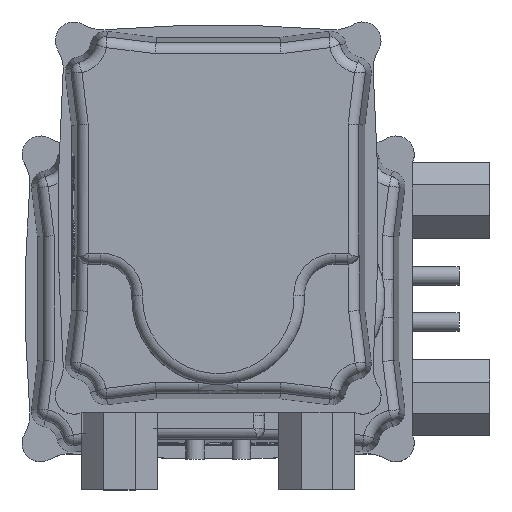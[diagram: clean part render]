
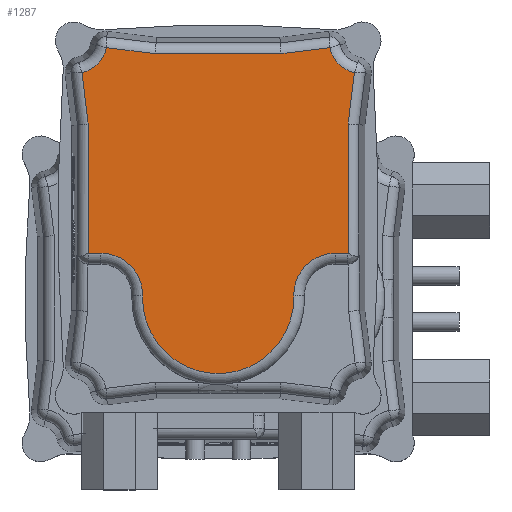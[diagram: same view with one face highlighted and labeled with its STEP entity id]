
A CAD part, top view. The second image highlights one B-rep face of the part: STEP entity #1287.
In plain terms, the highlighted planar face has unit normal (0, 0, 1).
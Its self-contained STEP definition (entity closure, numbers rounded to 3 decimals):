
#1287 = ADVANCED_FACE( '', ( #2986 ), #2987, .T. );
#2986 = FACE_OUTER_BOUND( '', #7973, .T. );
#2987 = PLANE( '', #7974 );
#7973 = EDGE_LOOP( '', ( #14096, #14097, #14098, #14099, #14100, #14101, #14102, #14103, #14104, #14105, #14106, #14107, #14108, #14109, #14110, #14111 ) );
#7974 = AXIS2_PLACEMENT_3D( '', #14112, #14113, #14114 );
#14096 = ORIENTED_EDGE( '', *, *, #18840, .T. );
#14097 = ORIENTED_EDGE( '', *, *, #18841, .T. );
#14098 = ORIENTED_EDGE( '', *, *, #17738, .T. );
#14099 = ORIENTED_EDGE( '', *, *, #18183, .T. );
#14100 = ORIENTED_EDGE( '', *, *, #18842, .T. );
#14101 = ORIENTED_EDGE( '', *, *, #18095, .T. );
#14102 = ORIENTED_EDGE( '', *, *, #18843, .T. );
#14103 = ORIENTED_EDGE( '', *, *, #18844, .T. );
#14104 = ORIENTED_EDGE( '', *, *, #18845, .T. );
#14105 = ORIENTED_EDGE( '', *, *, #18846, .T. );
#14106 = ORIENTED_EDGE( '', *, *, #18847, .T. );
#14107 = ORIENTED_EDGE( '', *, *, #18848, .T. );
#14108 = ORIENTED_EDGE( '', *, *, #18849, .T. );
#14109 = ORIENTED_EDGE( '', *, *, #18850, .T. );
#14110 = ORIENTED_EDGE( '', *, *, #18518, .T. );
#14111 = ORIENTED_EDGE( '', *, *, #18430, .T. );
#14112 = CARTESIAN_POINT( '', ( 47.227, -44.578, 84. ) );
#14113 = DIRECTION( '', ( 0., 0., 1. ) );
#14114 = DIRECTION( '', ( 1., 0., 0. ) );
#17738 = EDGE_CURVE( '', #20151, #19901, #20152, .F. );
#18095 = EDGE_CURVE( '', #20759, #20757, #20760, .T. );
#18183 = EDGE_CURVE( '', #19901, #20896, #20898, .T. );
#18430 = EDGE_CURVE( '', #21285, #21289, #21291, .T. );
#18518 = EDGE_CURVE( '', #21415, #21285, #21420, .F. );
#18840 = EDGE_CURVE( '', #21289, #21892, #21893, .T. );
#18841 = EDGE_CURVE( '', #21892, #20151, #21894, .T. );
#18842 = EDGE_CURVE( '', #20896, #20759, #21895, .T. );
#18843 = EDGE_CURVE( '', #20757, #21896, #21897, .T. );
#18844 = EDGE_CURVE( '', #21896, #21898, #21899, .F. );
#18845 = EDGE_CURVE( '', #21898, #21900, #21901, .T. );
#18846 = EDGE_CURVE( '', #21900, #21902, #21903, .F. );
#18847 = EDGE_CURVE( '', #21902, #21904, #21905, .T. );
#18848 = EDGE_CURVE( '', #21904, #21906, #21907, .T. );
#18849 = EDGE_CURVE( '', #21906, #21908, #21909, .T. );
#18850 = EDGE_CURVE( '', #21908, #21415, #21910, .T. );
#19901 = VERTEX_POINT( '', #23357 );
#20151 = VERTEX_POINT( '', #23801 );
#20152 = CIRCLE( '', #23802, 10.907 );
#20757 = VERTEX_POINT( '', #25404 );
#20759 = VERTEX_POINT( '', #25406 );
#20760 = CIRCLE( '', #25407, 0.5 );
#20896 = VERTEX_POINT( '', #25836 );
#20898 = LINE( '', #25838, #25839 );
#21285 = VERTEX_POINT( '', #26490 );
#21289 = VERTEX_POINT( '', #26512 );
#21291 = LINE( '', #26514, #26515 );
#21415 = VERTEX_POINT( '', #27113 );
#21420 = CIRCLE( '', #27158, 10.907 );
#21892 = VERTEX_POINT( '', #28335 );
#21893 = LINE( '', #28336, #28337 );
#21894 = LINE( '', #28338, #28339 );
#21895 = LINE( '', #28340, #28341 );
#21896 = VERTEX_POINT( '', #28342 );
#21897 = LINE( '', #28343, #28344 );
#21898 = VERTEX_POINT( '', #28345 );
#21899 = CIRCLE( '', #28346, 13.5 );
#21900 = VERTEX_POINT( '', #28347 );
#21901 = CIRCLE( '', #28348, 24.5 );
#21902 = VERTEX_POINT( '', #28349 );
#21903 = CIRCLE( '', #28350, 13.5 );
#21904 = VERTEX_POINT( '', #28351 );
#21905 = LINE( '', #28352, #28353 );
#21906 = VERTEX_POINT( '', #28354 );
#21907 = CIRCLE( '', #28355, 0.5 );
#21908 = VERTEX_POINT( '', #28356 );
#21909 = LINE( '', #28357, #28358 );
#21910 = LINE( '', #28359, #28360 );
#23357 = CARTESIAN_POINT( '', ( -46.913, -44.129, 84. ) );
#23801 = CARTESIAN_POINT( '', ( -55.033, -36.126, 84. ) );
#23802 = AXIS2_PLACEMENT_3D( '', #31657, #31658, #31659 );
#25404 = CARTESIAN_POINT( '', ( 11.5, -42., 84. ) );
#25406 = CARTESIAN_POINT( '', ( 11.491, -42.093, 84. ) );
#25407 = AXIS2_PLACEMENT_3D( '', #32015, #32016, #32017 );
#25836 = CARTESIAN_POINT( '', ( -30.331, -42.093, 84. ) );
#25838 = CARTESIAN_POINT( '', ( 45.775, -32.749, 84. ) );
#25839 = VECTOR( '', #32078, 1000. );
#26490 = CARTESIAN_POINT( '', ( -55.033, 36.126, 84. ) );
#26512 = CARTESIAN_POINT( '', ( -53.093, 20.331, 84. ) );
#26514 = CARTESIAN_POINT( '', ( -43.752, -55.749, 84. ) );
#26515 = VECTOR( '', #32305, 1000. );
#27113 = CARTESIAN_POINT( '', ( -46.913, 44.129, 84. ) );
#27158 = AXIS2_PLACEMENT_3D( '', #32348, #32349, #32350 );
#28335 = CARTESIAN_POINT( '', ( -53.093, -20.331, 84. ) );
#28336 = CARTESIAN_POINT( '', ( -53.093, -44.578, 84. ) );
#28337 = VECTOR( '', #32609, 1000. );
#28338 = CARTESIAN_POINT( '', ( -54.536, -32.083, 84. ) );
#28339 = VECTOR( '', #32610, 1000. );
#28340 = CARTESIAN_POINT( '', ( 47.227, -42.093, 84. ) );
#28341 = VECTOR( '', #32611, 1000. );
#28342 = CARTESIAN_POINT( '', ( 11.5, -37.987, 84. ) );
#28343 = CARTESIAN_POINT( '', ( 11.5, -44.578, 84. ) );
#28344 = VECTOR( '', #32612, 1000. );
#28345 = CARTESIAN_POINT( '', ( 25.355, -24.492, 84. ) );
#28346 = AXIS2_PLACEMENT_3D( '', #32613, #32614, #32615 );
#28347 = CARTESIAN_POINT( '', ( 25.355, 24.492, 84. ) );
#28348 = AXIS2_PLACEMENT_3D( '', #32616, #32617, #32618 );
#28349 = CARTESIAN_POINT( '', ( 11.5, 37.987, 84. ) );
#28350 = AXIS2_PLACEMENT_3D( '', #32619, #32620, #32621 );
#28351 = CARTESIAN_POINT( '', ( 11.5, 42., 84. ) );
#28352 = CARTESIAN_POINT( '', ( 11.5, -44.578, 84. ) );
#28353 = VECTOR( '', #32622, 1000. );
#28354 = CARTESIAN_POINT( '', ( 11.491, 42.093, 84. ) );
#28355 = AXIS2_PLACEMENT_3D( '', #32623, #32624, #32625 );
#28356 = CARTESIAN_POINT( '', ( -30.331, 42.093, 84. ) );
#28357 = CARTESIAN_POINT( '', ( 47.227, 42.093, 84. ) );
#28358 = VECTOR( '', #32626, 1000. );
#28359 = CARTESIAN_POINT( '', ( 56.559, 31.425, 84. ) );
#28360 = VECTOR( '', #32627, 1000. );
#31657 = CARTESIAN_POINT( '', ( -57.5, -46.75, 84. ) );
#31658 = DIRECTION( '', ( 0., 0., 1. ) );
#31659 = DIRECTION( '', ( 1., 0., 0. ) );
#32015 = CARTESIAN_POINT( '', ( 11., -42., 84. ) );
#32016 = DIRECTION( '', ( 0., 0., 1. ) );
#32017 = DIRECTION( '', ( 1., 0., 0. ) );
#32078 = DIRECTION( '', ( 0.993, 0.122, 0. ) );
#32305 = DIRECTION( '', ( 0.122, -0.993, 0. ) );
#32348 = CARTESIAN_POINT( '', ( -57.5, 46.75, 84. ) );
#32349 = DIRECTION( '', ( 0., 0., 1. ) );
#32350 = DIRECTION( '', ( 1., 0., 0. ) );
#32609 = DIRECTION( '', ( 0., -1., 0. ) );
#32610 = DIRECTION( '', ( -0.122, -0.993, 0. ) );
#32611 = DIRECTION( '', ( 1., 0., 0. ) );
#32612 = DIRECTION( '', ( 0., 1., 0. ) );
#32613 = CARTESIAN_POINT( '', ( 25., -37.987, 84. ) );
#32614 = DIRECTION( '', ( 0., 0., 1. ) );
#32615 = DIRECTION( '', ( 1., 0., 0. ) );
#32616 = CARTESIAN_POINT( '', ( 26., 0., 84. ) );
#32617 = DIRECTION( '', ( 0., 0., 1. ) );
#32618 = DIRECTION( '', ( 1., 0., 0. ) );
#32619 = CARTESIAN_POINT( '', ( 25., 37.987, 84. ) );
#32620 = DIRECTION( '', ( 0., 0., 1. ) );
#32621 = DIRECTION( '', ( 1., 0., 0. ) );
#32622 = DIRECTION( '', ( 0., 1., 0. ) );
#32623 = CARTESIAN_POINT( '', ( 11., 42., 84. ) );
#32624 = DIRECTION( '', ( 0., 0., 1. ) );
#32625 = DIRECTION( '', ( 1., 0., 0. ) );
#32626 = DIRECTION( '', ( -1., 0., 0. ) );
#32627 = DIRECTION( '', ( -0.993, 0.122, 0. ) );
